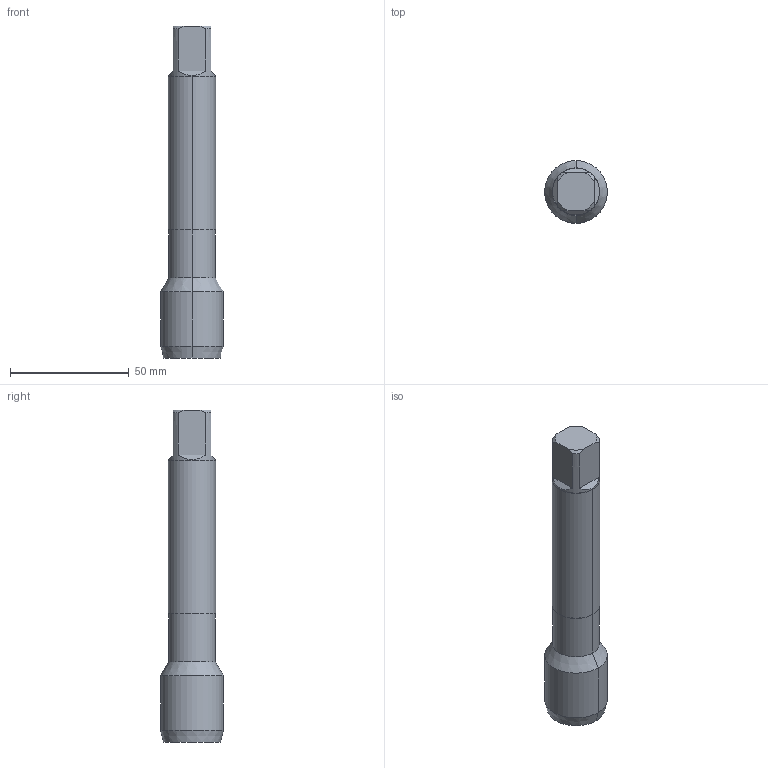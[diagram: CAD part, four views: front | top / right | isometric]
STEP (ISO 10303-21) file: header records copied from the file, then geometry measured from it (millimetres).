
FILE_DESCRIPTION (( 'STEP AP214' ), '1' );
FILE_NAME ('TC728700.STEP', '2020-03-10T05:13:57', ( 'USER' ), ( '' ), 'SwSTEP 2.0', 'SolidWorks 2018', '' );
FILE_SCHEMA (( 'AUTOMOTIVE_DESIGN' ));
Length unit declared in the file: millimetre
Products named in the file (1): TC728700
Bounding box: 26.44 x 26.44 x 140 mm (x, y, z)
Volume: 49356.7 mm3; surface area: 11204 mm2
Topology: 2 solids, 2 shells, 30 faces, 68 edges, 44 vertices
Faces by surface type: plane 14, cone 8, cylinder 8
Entity records: 1233 total; most frequent: CARTESIAN_POINT 191, DIRECTION 142, ORIENTED_EDGE 136, EDGE_CURVE 68, AXIS2_PLACEMENT_3D 57, VERTEX_POINT 44, UNCERTAINTY_MEASURE_WITH_UNIT 34, STYLED_ITEM 33
